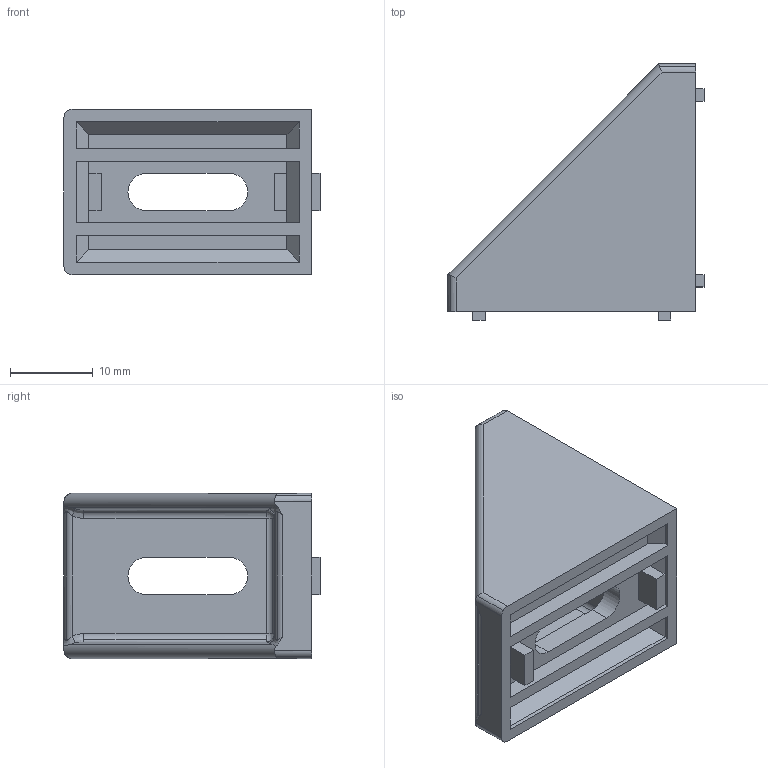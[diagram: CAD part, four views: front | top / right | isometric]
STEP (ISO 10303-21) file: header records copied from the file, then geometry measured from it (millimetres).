
FILE_DESCRIPTION (( 'STEP AP203' ), '1' );
FILE_NAME ('WT2030-4.STEP', '2024-02-17T06:27:21', ( '' ), ( '' ), 'SwSTEP 2.0', 'SolidWorks 2022', '' );
FILE_SCHEMA (( 'CONFIG_CONTROL_DESIGN' ));
Length unit declared in the file: millimetre
Products named in the file (1): WT2030-4
Bounding box: 31 x 31 x 20 mm (x, y, z)
Volume: 4717.9 mm3; surface area: 4669.2 mm2
Topology: 1 solids, 1 shells, 121 faces, 311 edges, 196 vertices
Faces by surface type: plane 80, cylinder 31, bspline 8, sphere 2
Entity records: 4001 total; most frequent: CARTESIAN_POINT 1114, ORIENTED_EDGE 618, DIRECTION 515, EDGE_CURVE 309, VECTOR 227, LINE 227, VERTEX_POINT 196, AXIS2_PLACEMENT_3D 144
